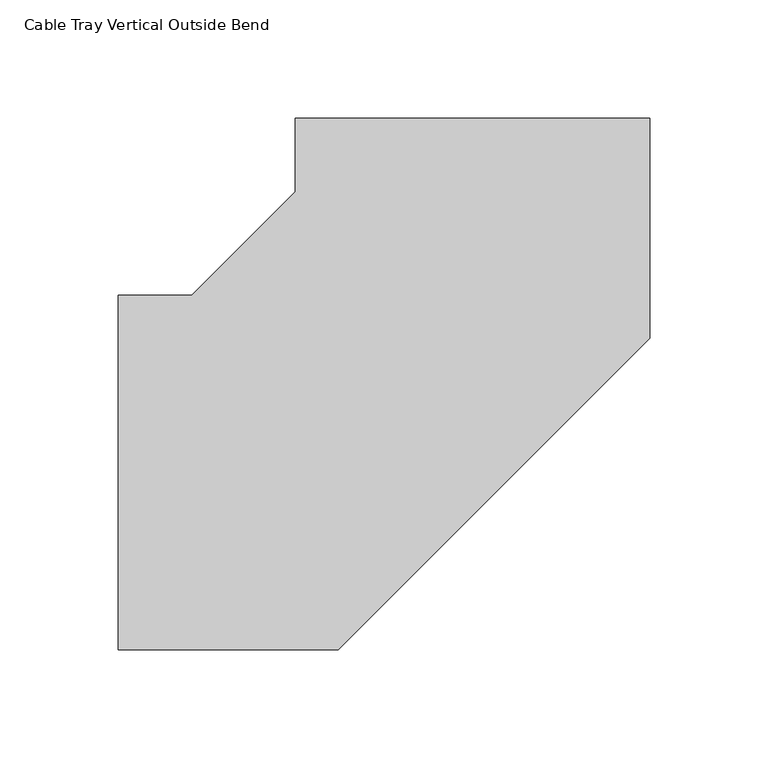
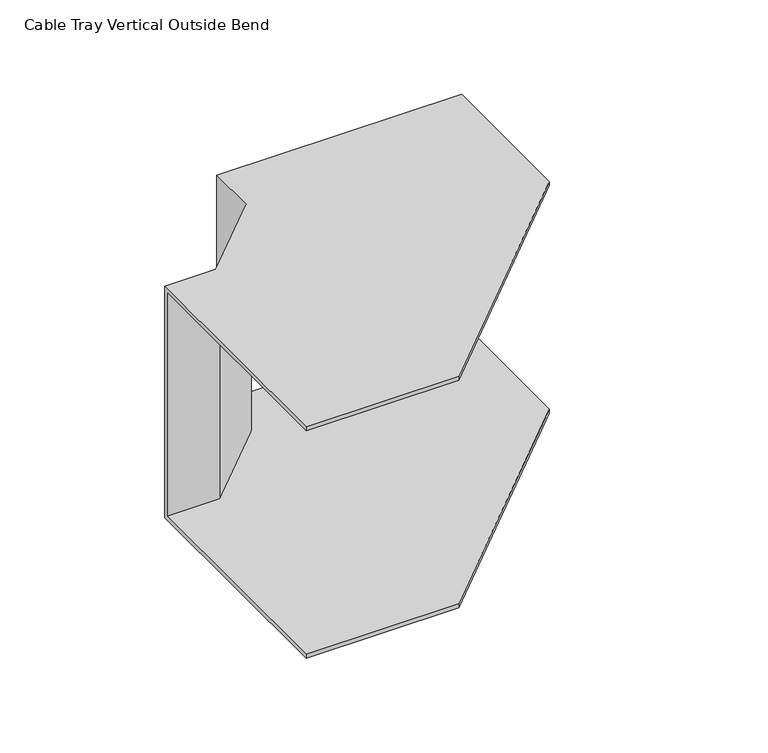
"""IFC4 building model written with IfcOpenShell, lengths in millimetres: cable carrier fitting geometry, Cable Tray Vertical Outside Bend : ELEC_ELV_TKG_N2402."""

from ifc_helpers import new_model, si_unit, origin, place, context, project, spatial, faceted_brep, source, transform, mapped, element, save


def cable_tray_vertical_outside_bend_b526f006(model_context):
    return source(origin(), model_context, "Body", "Brep", [
        faceted_brep([(-150.0, -75.0, 75.0), (-150.0, 75.0, 75.0), (-150.0, 75.0, -75.0), (-150.0, -75.0, -75.0), (-150.0, -75.0, -72.46), (-150.0, 72.46, -72.46), (-150.0, 72.46, 72.46), (-150.0, -75.0, 72.46), (75.0, 150.0, 75.0), (75.0, 150.0, 72.46), (-72.46, 150.0, 72.46), (-72.46, 150.0, -72.46), (75.0, 150.0, -72.46), (75.0, 150.0, -75.0), (-75.0, 150.0, -75.0), (-75.0, 150.0, 75.0), (-56.8019485, -75.0, 75.0), (75.0, 56.8019485, 75.0), (-75.0, 118.9339828, 75.0), (-118.9339828, 75.0, 75.0), (-118.9339828, 75.0, -75.0), (-75.0, 118.9339828, -75.0), (75.0, 56.8019485, -75.0), (-56.8019485, -75.0, -75.0), (-56.8019485, -75.0, -72.46), (75.0, 56.8019485, -72.46), (-72.46, 117.8818804, -72.46), (-117.8818804, 72.46, -72.46), (-117.8818804, 72.46, 72.46), (-72.46, 117.8818804, 72.46), (75.0, 56.8019485, 72.46), (-56.8019485, -75.0, 72.46)], [[[0, 1, 2, 3, 4, 5, 6, 7]], [[8, 9, 10, 11, 12, 13, 14, 15]], [[1, 0, 16, 17, 8, 15, 18, 19]], [[2, 1, 19, 20]], [[3, 2, 20, 21, 14, 13, 22, 23]], [[4, 3, 23, 24]], [[5, 4, 24, 25, 12, 11, 26, 27]], [[6, 5, 27, 28]], [[7, 6, 28, 29, 10, 9, 30, 31]], [[0, 7, 31, 16]], [[20, 19, 18, 21]], [[24, 23, 22, 25]], [[28, 27, 26, 29]], [[16, 31, 30, 17]], [[21, 18, 15, 14]], [[25, 22, 13, 12]], [[29, 26, 11, 10]], [[17, 30, 9, 8]]]),
    ])


if __name__ == "__main__":
    model = new_model("IFC4")
    model_context = context("Model", 3, world=origin())
    ifc_project = project(units=[si_unit("LENGTHUNIT", "METRE", prefix="MILLI")], contexts=[model_context])
    site = spatial("IfcSite", under=ifc_project)
    building = spatial("IfcBuilding", under=site)
    placement = place(None, origin())
    cable_tray_vertical_outside_bend_shape = cable_tray_vertical_outside_bend_b526f006(model_context)
    element("IfcCableCarrierFitting", 1, ObjectType="Cable Tray Vertical Outside Bend : ELEC_ELV_TKG_N2402", at=placement, inside=building, context=model_context, shape_type="MappedRepresentation", body=[
        mapped(cable_tray_vertical_outside_bend_shape, transform((0.0, 0.0, 0.0), x_axis=(1.0, 0.0, 0.0), y_axis=(0.0, 1.0, 0.0), z_axis=(0.0, 0.0, 1.0))),
    ])
    save(model, "model.ifc")
